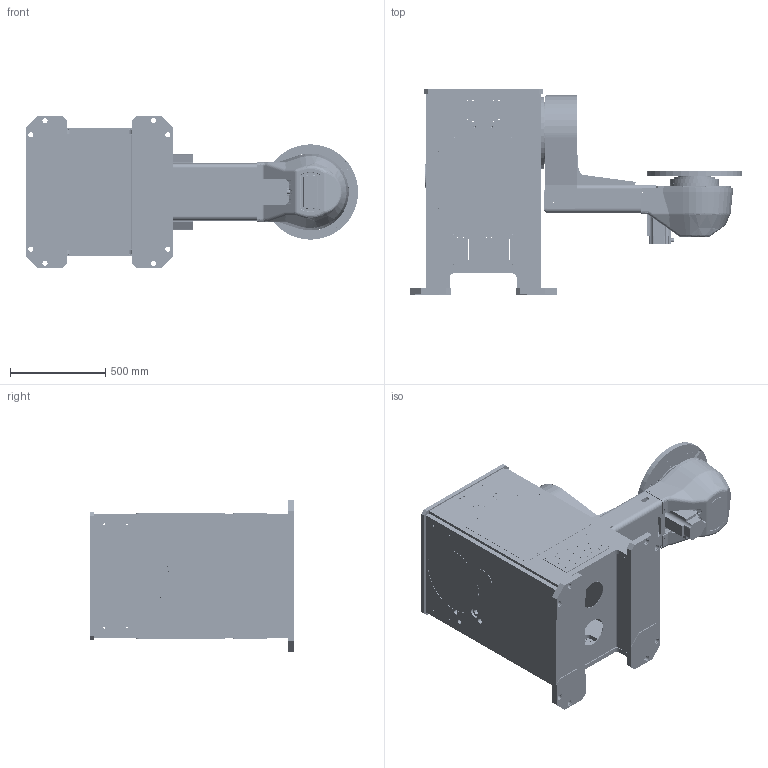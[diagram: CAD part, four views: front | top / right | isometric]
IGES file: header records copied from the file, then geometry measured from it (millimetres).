
Start section: SolidWorks IGES file using analytic representation for surfaces
Global section: file name: S:\Standardpositionierer\3D-Modelle (reduziert)\BL\126919red\126919red.IGS; native system: SolidWorks 2008; preprocessor: SolidWorks 2008; author: loeschner; date: 081106.163613; units: millimetre
Bounding box: 1744.74 x 1077 x 800 mm (x, y, z)
Surface area: 13597185.3 mm2 (no closed solid volume)
Topology: 0 solids, 0 shells, 2854 faces, 53118 edges, 52911 vertices
Faces by surface type: revolution 1820, bspline 1034
